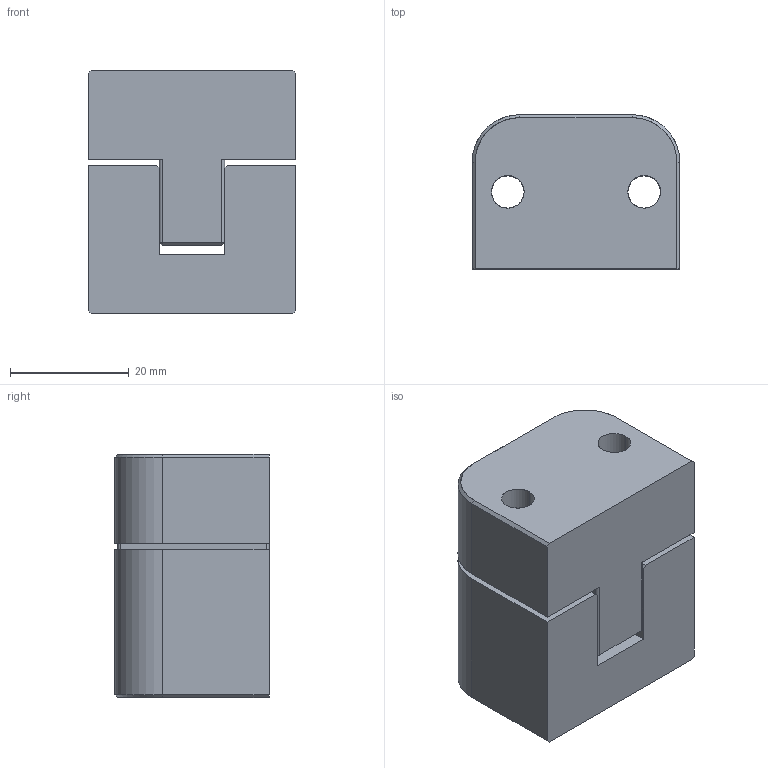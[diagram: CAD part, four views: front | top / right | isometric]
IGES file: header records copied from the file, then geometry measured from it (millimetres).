
Start section: START RECORD GO HERE.
Global section: file name: CL505035.igs; native system: DASSAULT SYSTEMES CATIA V5 R20 - www.3ds.com; preprocessor: CATIA Version 5 Release 20 ; author: Utente; organization: NB04-ASUS; date: 20200419.212244; units: millimetre
Bounding box: 35 x 26 x 41 mm (x, y, z)
Surface area: 11912.5 mm2 (no closed solid volume)
Topology: 0 solids, 0 shells, 152 faces, 612 edges, 608 vertices
Faces by surface type: revolution 80, plane 72
